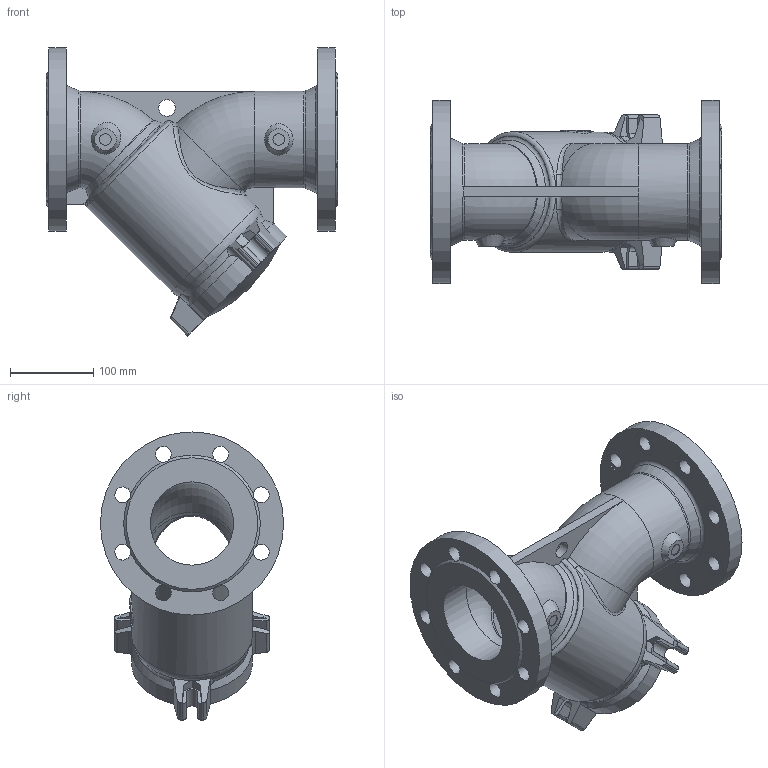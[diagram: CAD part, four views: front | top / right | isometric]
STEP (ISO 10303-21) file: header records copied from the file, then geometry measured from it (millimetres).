
FILE_DESCRIPTION(('STEP AP203'), '1');
FILE_NAME('Ôèëüòð ñåò÷àòûé ôëàíöåâûé 021Y.M DN100 PN10_PN16', '', ('UNSPECIFIED'), ('UNSPECIFIED'), 'ASCON STEP Converter 1.6', 'ASCON Math Kernel', '');
FILE_SCHEMA(('CONFIG_CONTROL_DESIGN'));
Length unit declared in the file: millimetre
Bounding box: 350 x 220 x 346.09 mm (x, y, z)
Volume: 3073841.5 mm3; surface area: 528930.8 mm2
Topology: 1 solids, 1 shells, 203 faces, 558 edges, 362 vertices
Faces by surface type: plane 80, cylinder 74, torus 21, cone 15, bspline 12, sphere 1
Full cylindrical faces by diameter (mm): 14 x2, 19 x16, 20 x1, 30 x8, 100 x4, 114 x2, 116 x1, 128 x1, 220 x2
Entity records: 16746 total; most frequent: CARTESIAN_POINT 10214, ORIENTED_EDGE 1002, DIRECTION 942, EDGE_CURVE 501, AXIS2_PLACEMENT_3D 397, VERTEX_POINT 358, EDGE_LOOP 297, FACE_BOUND 217
